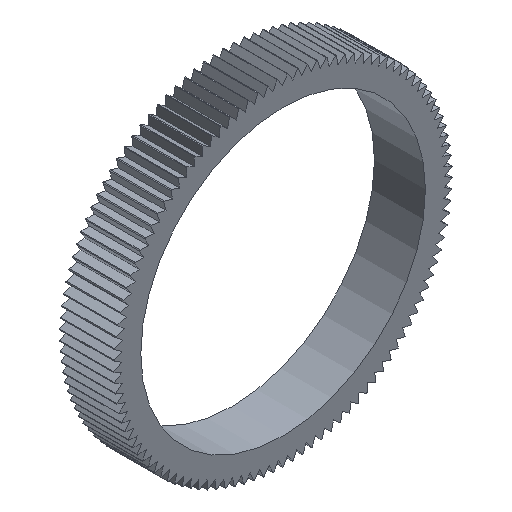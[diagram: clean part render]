
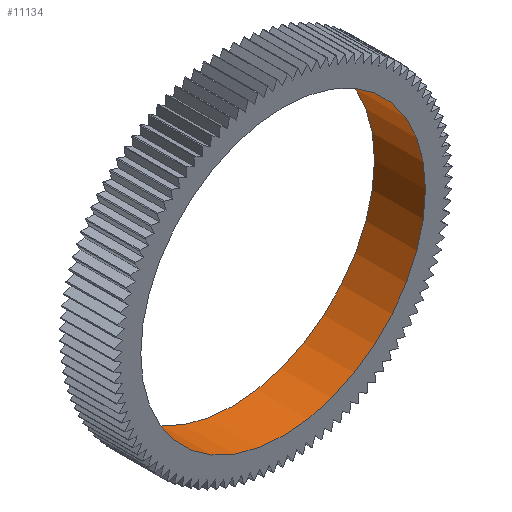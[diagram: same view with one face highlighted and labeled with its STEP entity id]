
A CAD part, isometric view. The second image highlights one B-rep face of the part: STEP entity #11134.
In plain terms, the highlighted cylindrical face has radius 22 mm (diameter 44 mm), a full revolution.
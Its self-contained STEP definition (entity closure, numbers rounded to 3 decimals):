
#11103=CARTESIAN_POINT('',(22.0,0.,0.0));
#11104=VERTEX_POINT('',#11103);
#11105=CARTESIAN_POINT('',(0.0,0.,0.0));
#11106=DIRECTION('',(0.0,-1.0,0.0));
#11107=DIRECTION('',(1.0,0.0,0.0));
#11108=AXIS2_PLACEMENT_3D('',#11105,#11106,#11107);
#11109=CIRCLE('',#11108,22.0);
#11110=EDGE_CURVE('',#11104,#11104,#11109,.T.);
#11115=CARTESIAN_POINT('',(0.0,3.94,0.0));
#11116=DIRECTION('',(0.0,-1.0,0.0));
#11117=DIRECTION('',(1.0,0.0,0.0));
#11118=AXIS2_PLACEMENT_3D('',#11115,#11116,#11117);
#11119=CYLINDRICAL_SURFACE('',#11118,22.0);
#11120=CARTESIAN_POINT('',(22.0,7.88,0.0));
#11121=VERTEX_POINT('',#11120);
#11122=CARTESIAN_POINT('',(0.0,7.88,0.0));
#11123=DIRECTION('',(0.0,-1.0,0.0));
#11124=DIRECTION('',(1.0,0.0,0.0));
#11125=AXIS2_PLACEMENT_3D('',#11122,#11123,#11124);
#11126=CIRCLE('',#11125,22.0);
#11127=EDGE_CURVE('',#11121,#11121,#11126,.T.);
#11128=ORIENTED_EDGE('',*,*,#11127,.F.);
#11129=EDGE_LOOP('',(#11128));
#11130=FACE_OUTER_BOUND('',#11129,.T.);
#11131=ORIENTED_EDGE('',*,*,#11110,.T.);
#11132=EDGE_LOOP('',(#11131));
#11133=FACE_BOUND('',#11132,.T.);
#11134=ADVANCED_FACE('',(#11130,#11133),#11119,.F.);
